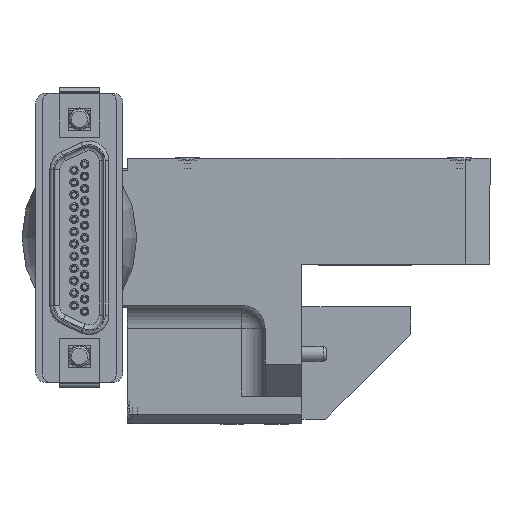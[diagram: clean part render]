
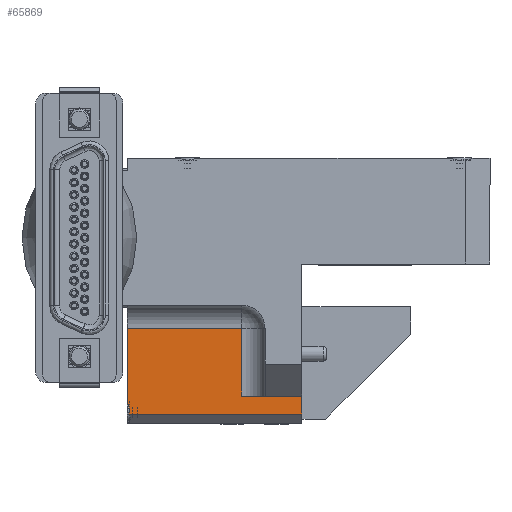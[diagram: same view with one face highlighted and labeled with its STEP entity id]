
A CAD part, front view. The second image highlights one B-rep face of the part: STEP entity #65869.
In plain terms, the highlighted planar face has unit normal (0, -1, 0).
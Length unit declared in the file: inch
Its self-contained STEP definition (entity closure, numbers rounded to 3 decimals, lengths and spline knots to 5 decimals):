
#1318 = CARTESIAN_POINT ( 'NONE',  ( -0.25004, -0.35, -0.529 ) ) ;
#2643 = VERTEX_POINT ( 'NONE', #29461 ) ;
#2974 = CARTESIAN_POINT ( 'NONE',  ( -0.895, -0.35, -0.6421 ) ) ;
#3110 = DIRECTION ( 'NONE',  ( 1., 0., 0. ) ) ;
#3300 = VECTOR ( 'NONE', #84060, 39.37008 ) ;
#3443 = FACE_OUTER_BOUND ( 'NONE', #4018, .T. ) ;
#4018 = EDGE_LOOP ( 'NONE', ( #68618, #66265, #19051, #8439, #32689, #38268, #50613 ) ) ;
#7043 = LINE ( 'NONE', #14307, #85623 ) ;
#7363 = CARTESIAN_POINT ( 'NONE',  ( -0.96, -0.35, -0.25275 ) ) ;
#8156 = LINE ( 'NONE', #1318, #81439 ) ;
#8439 = ORIENTED_EDGE ( 'NONE', *, *, #36327, .T. ) ;
#9211 = EDGE_CURVE ( 'NONE', #82800, #85651, #54184, .T. ) ;
#11847 = CARTESIAN_POINT ( 'NONE',  ( -0.95683, -0.35, -0.56225 ) ) ;
#14307 = CARTESIAN_POINT ( 'NONE',  ( -0.25004, -0.35, -0.6021 ) ) ;
#14500 = VECTOR ( 'NONE', #15238, 39.37008 ) ;
#14976 = VECTOR ( 'NONE', #19693, 39.37008 ) ;
#15238 = DIRECTION ( 'NONE',  ( -1., 0., 0. ) ) ;
#16758 = VERTEX_POINT ( 'NONE', #37534 ) ;
#17470 = DIRECTION ( 'NONE',  ( -1., 0., 0. ) ) ;
#18649 = CARTESIAN_POINT ( 'NONE',  ( -0.95292, -0.35, -0.59815 ) ) ;
#19051 = ORIENTED_EDGE ( 'NONE', *, *, #24402, .F. ) ;
#19693 = DIRECTION ( 'NONE',  ( 0., 0., 1. ) ) ;
#22955 = LINE ( 'NONE', #57418, #14500 ) ;
#22988 = PLANE ( 'NONE',  #53686 ) ;
#24402 = EDGE_CURVE ( 'NONE', #40065, #82800, #84967, .T. ) ;
#28375 = CARTESIAN_POINT ( 'NONE',  ( -0.95388, -0.35, -0.6021 ) ) ;
#29135 = CARTESIAN_POINT ( 'NONE',  ( -0.25004, -0.35, -0.6421 ) ) ;
#29461 = CARTESIAN_POINT ( 'NONE',  ( -0.25004, -0.35, -0.529 ) ) ;
#31768 = LINE ( 'NONE', #84907, #73881 ) ;
#32689 = ORIENTED_EDGE ( 'NONE', *, *, #73359, .T. ) ;
#35033 = LINE ( 'NONE', #29135, #3300 ) ;
#36327 = EDGE_CURVE ( 'NONE', #40065, #65965, #7043, .T. ) ;
#37534 = CARTESIAN_POINT ( 'NONE',  ( -0.49379, -0.35, -0.529 ) ) ;
#38268 = ORIENTED_EDGE ( 'NONE', *, *, #72666, .F. ) ;
#39562 = CARTESIAN_POINT ( 'NONE',  ( -0.96, -0.35, -0.55485 ) ) ;
#40065 = VERTEX_POINT ( 'NONE', #28375 ) ;
#42875 = DIRECTION ( 'NONE',  ( 1., 0., 0. ) ) ;
#43402 = EDGE_CURVE ( 'NONE', #16758, #71812, #31768, .T. ) ;
#48116 = CARTESIAN_POINT ( 'NONE',  ( -0.95433, -0.35, -0.56994 ) ) ;
#50376 = DIRECTION ( 'NONE',  ( 0., 0., 1. ) ) ;
#50613 = ORIENTED_EDGE ( 'NONE', *, *, #43402, .T. ) ;
#53686 = AXIS2_PLACEMENT_3D ( 'NONE', #2974, #79670, #17470 ) ;
#53729 = CARTESIAN_POINT ( 'NONE',  ( -0.96, -0.35, -0.159 ) ) ;
#54184 = LINE ( 'NONE', #53729, #14976 ) ;
#54937 = CARTESIAN_POINT ( 'NONE',  ( -0.95334, -0.35, -0.57392 ) ) ;
#57418 = CARTESIAN_POINT ( 'NONE',  ( -0.895, -0.35, -0.25275 ) ) ;
#60824 = CARTESIAN_POINT ( 'NONE',  ( -0.9519, -0.35, -0.58595 ) ) ;
#61723 = CARTESIAN_POINT ( 'NONE',  ( -0.9523, -0.35, -0.59406 ) ) ;
#64156 = EDGE_CURVE ( 'NONE', #71812, #85651, #22955, .T. ) ;
#65869 = ADVANCED_FACE ( 'NONE', ( #3443 ), #22988, .F. ) ;
#65965 = VERTEX_POINT ( 'NONE', #73774 ) ;
#66265 = ORIENTED_EDGE ( 'NONE', *, *, #9211, .F. ) ;
#68618 = ORIENTED_EDGE ( 'NONE', *, *, #64156, .T. ) ;
#69250 = CARTESIAN_POINT ( 'NONE',  ( -0.96, -0.35, -0.55485 ) ) ;
#71761 = CARTESIAN_POINT ( 'NONE',  ( -0.49379, -0.35, -0.25275 ) ) ;
#71812 = VERTEX_POINT ( 'NONE', #71761 ) ;
#72666 = EDGE_CURVE ( 'NONE', #16758, #2643, #8156, .T. ) ;
#73359 = EDGE_CURVE ( 'NONE', #65965, #2643, #35033, .T. ) ;
#73774 = CARTESIAN_POINT ( 'NONE',  ( -0.25004, -0.35, -0.6021 ) ) ;
#73881 = VECTOR ( 'NONE', #50376, 39.37008 ) ;
#74951 = CARTESIAN_POINT ( 'NONE',  ( -0.95833, -0.35, -0.55851 ) ) ;
#75822 = CARTESIAN_POINT ( 'NONE',  ( -0.95388, -0.35, -0.6021 ) ) ;
#79670 = DIRECTION ( 'NONE',  ( 0., 1., 0. ) ) ;
#80871 = CARTESIAN_POINT ( 'NONE',  ( -0.95212, -0.35, -0.58192 ) ) ;
#81439 = VECTOR ( 'NONE', #3110, 39.37008 ) ;
#82800 = VERTEX_POINT ( 'NONE', #69250 ) ;
#84060 = DIRECTION ( 'NONE',  ( 0., 0., 1. ) ) ;
#84907 = CARTESIAN_POINT ( 'NONE',  ( -0.49379, -0.35, -0.159 ) ) ;
#84967 = B_SPLINE_CURVE_WITH_KNOTS ( 'NONE', 3,
 ( #75822, #18649, #61723, #60824, #80871, #54937, #48116, #11847, #74951, #39562 ),
 .UNSPECIFIED., .F., .F.,
 ( 4, 2, 2, 2, 4 ),
 ( 0.00242, 0.00273, 0.00304, 0.00334, 0.00365 ),
 .UNSPECIFIED. ) ;
#85623 = VECTOR ( 'NONE', #42875, 39.37008 ) ;
#85651 = VERTEX_POINT ( 'NONE', #7363 ) ;
